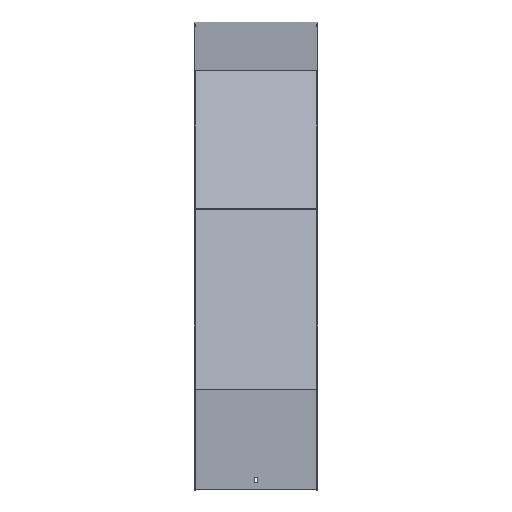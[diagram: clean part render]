
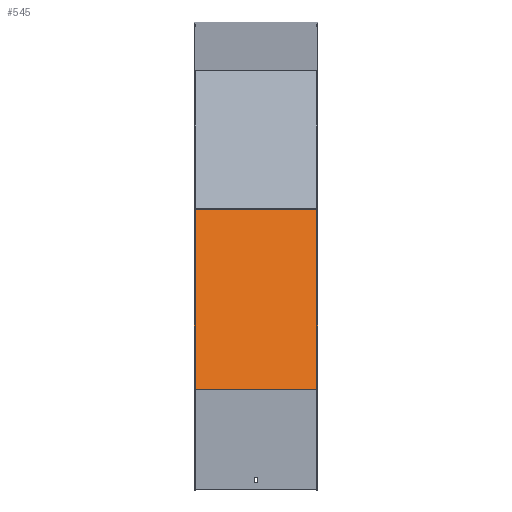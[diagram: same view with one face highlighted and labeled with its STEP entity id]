
A CAD part, top view. The second image highlights one B-rep face of the part: STEP entity #545.
In plain terms, the highlighted planar face has unit normal (0, 0.259, 0.966).
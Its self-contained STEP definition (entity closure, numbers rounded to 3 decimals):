
#11 = PLANE ( 'NONE',  #108 ) ;
#86 = CARTESIAN_POINT ( 'NONE',  ( -101.5, -292.828, 691.748 ) ) ;
#90 = VERTEX_POINT ( 'NONE', #848 ) ;
#92 = VERTEX_POINT ( 'NONE', #767 ) ;
#101 = FACE_OUTER_BOUND ( 'NONE', #273, .T. ) ;
#108 = AXIS2_PLACEMENT_3D ( 'NONE', #793, #164, #1034 ) ;
#115 = CARTESIAN_POINT ( 'NONE',  ( -101.5, -584.183, 769.816 ) ) ;
#154 = EDGE_CURVE ( 'NONE', #602, #92, #280, .T. ) ;
#156 = ORIENTED_EDGE ( 'NONE', *, *, #214, .F. ) ;
#164 = DIRECTION ( 'NONE',  ( 0., -0.259, -0.966 ) ) ;
#176 = CARTESIAN_POINT ( 'NONE',  ( 101.5, -292.828, 691.748 ) ) ;
#181 = LINE ( 'NONE', #86, #836 ) ;
#197 = VERTEX_POINT ( 'NONE', #115 ) ;
#214 = EDGE_CURVE ( 'NONE', #90, #197, #826, .T. ) ;
#229 = ORIENTED_EDGE ( 'NONE', *, *, #916, .T. ) ;
#251 = LINE ( 'NONE', #176, #887 ) ;
#267 = VECTOR ( 'NONE', #989, 1000. ) ;
#273 = EDGE_LOOP ( 'NONE', ( #229, #156, #785, #514 ) ) ;
#280 = LINE ( 'NONE', #516, #781 ) ;
#514 = ORIENTED_EDGE ( 'NONE', *, *, #154, .T. ) ;
#516 = CARTESIAN_POINT ( 'NONE',  ( 101.5, -287.651, 690.361 ) ) ;
#529 = DIRECTION ( 'NONE',  ( 0., -0.966, 0.259 ) ) ;
#545 = ADVANCED_FACE ( 'NONE', ( #101 ), #11, .F. ) ;
#602 = VERTEX_POINT ( 'NONE', #830 ) ;
#767 = CARTESIAN_POINT ( 'NONE',  ( -101.5, -287.651, 690.361 ) ) ;
#781 = VECTOR ( 'NONE', #1029, 1000. ) ;
#785 = ORIENTED_EDGE ( 'NONE', *, *, #952, .F. ) ;
#793 = CARTESIAN_POINT ( 'NONE',  ( 101.5, -292.828, 691.748 ) ) ;
#826 = LINE ( 'NONE', #1059, #267 ) ;
#830 = CARTESIAN_POINT ( 'NONE',  ( 101.5, -287.651, 690.361 ) ) ;
#836 = VECTOR ( 'NONE', #529, 1000. ) ;
#848 = CARTESIAN_POINT ( 'NONE',  ( 101.5, -584.183, 769.816 ) ) ;
#875 = DIRECTION ( 'NONE',  ( 0., -0.966, 0.259 ) ) ;
#887 = VECTOR ( 'NONE', #875, 1000. ) ;
#916 = EDGE_CURVE ( 'NONE', #92, #197, #181, .T. ) ;
#952 = EDGE_CURVE ( 'NONE', #602, #90, #251, .T. ) ;
#989 = DIRECTION ( 'NONE',  ( -1., 0., 0. ) ) ;
#1029 = DIRECTION ( 'NONE',  ( -1., 0., 0. ) ) ;
#1034 = DIRECTION ( 'NONE',  ( 0., 0.966, -0.259 ) ) ;
#1059 = CARTESIAN_POINT ( 'NONE',  ( 101.5, -584.183, 769.816 ) ) ;
